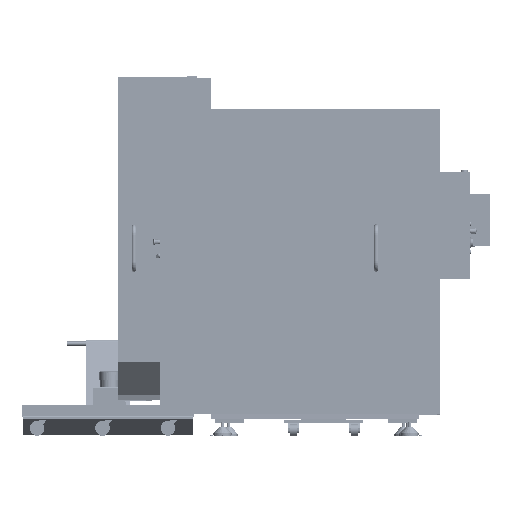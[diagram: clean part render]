
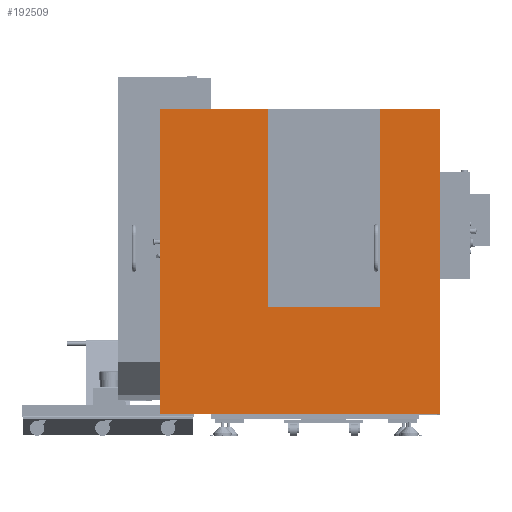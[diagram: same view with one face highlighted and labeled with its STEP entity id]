
A CAD part, top view. The second image highlights one B-rep face of the part: STEP entity #192509.
In plain terms, the highlighted planar face has unit normal (0, 0, 1).
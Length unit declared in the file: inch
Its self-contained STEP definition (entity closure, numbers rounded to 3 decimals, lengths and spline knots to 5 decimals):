
#3843 = VERTEX_POINT ( 'NONE', #401386 ) ;
#7853 = CARTESIAN_POINT ( 'NONE',  ( 15.35, 89.8247, 72.5956 ) ) ;
#9060 = LINE ( 'NONE', #45745, #337877 ) ;
#11697 = PLANE ( 'NONE',  #223214 ) ;
#13912 = EDGE_CURVE ( 'NONE', #393071, #234578, #114820, .T. ) ;
#22282 = VERTEX_POINT ( 'NONE', #31652 ) ;
#22392 = EDGE_CURVE ( 'NONE', #360240, #64587, #9060, .T. ) ;
#31652 = CARTESIAN_POINT ( 'NONE',  ( -45.2691, 89.8247, 72.5956 ) ) ;
#37657 = CARTESIAN_POINT ( 'NONE',  ( 32., 5.9, 72.5956 ) ) ;
#40320 = DIRECTION ( 'NONE',  ( 0., -1., 0. ) ) ;
#40324 = ORIENTED_EDGE ( 'NONE', *, *, #13912, .T. ) ;
#41107 = DIRECTION ( 'NONE',  ( 0., 1., 0. ) ) ;
#45386 = CARTESIAN_POINT ( 'NONE',  ( 15.35, 35.1, 72.5956 ) ) ;
#45611 = VECTOR ( 'NONE', #57367, 39.37008 ) ;
#45745 = CARTESIAN_POINT ( 'NONE',  ( 30.98, 89.8247, 72.5956 ) ) ;
#57367 = DIRECTION ( 'NONE',  ( 0., 1., 0. ) ) ;
#64587 = VERTEX_POINT ( 'NONE', #115957 ) ;
#71556 = CARTESIAN_POINT ( 'NONE',  ( -15.35, 35.1, 72.5956 ) ) ;
#95384 = VECTOR ( 'NONE', #351770, 39.37008 ) ;
#98489 = LINE ( 'NONE', #194668, #355617 ) ;
#101040 = CARTESIAN_POINT ( 'NONE',  ( 32., 5.9, 72.5956 ) ) ;
#101818 = ORIENTED_EDGE ( 'NONE', *, *, #107694, .T. ) ;
#107694 = EDGE_CURVE ( 'NONE', #234578, #227497, #98489, .T. ) ;
#110860 = ORIENTED_EDGE ( 'NONE', *, *, #171607, .F. ) ;
#114820 = LINE ( 'NONE', #206957, #371380 ) ;
#115957 = CARTESIAN_POINT ( 'NONE',  ( 32., 89.8247, 72.5956 ) ) ;
#132456 = FACE_OUTER_BOUND ( 'NONE', #267202, .T. ) ;
#133888 = DIRECTION ( 'NONE',  ( 1., 0., 0. ) ) ;
#136520 = CARTESIAN_POINT ( 'NONE',  ( 30.98, 5.9, 72.5956 ) ) ;
#146553 = DIRECTION ( 'NONE',  ( 0., 1., 0. ) ) ;
#148240 = EDGE_CURVE ( 'NONE', #393071, #360240, #184230, .T. ) ;
#155185 = CARTESIAN_POINT ( 'NONE',  ( -15.35, 89.8247, 72.5956 ) ) ;
#158727 = ORIENTED_EDGE ( 'NONE', *, *, #22392, .F. ) ;
#161103 = ORIENTED_EDGE ( 'NONE', *, *, #303616, .F. ) ;
#171607 = EDGE_CURVE ( 'NONE', #22282, #227497, #375359, .T. ) ;
#177769 = VERTEX_POINT ( 'NONE', #37657 ) ;
#184230 = LINE ( 'NONE', #212884, #45611 ) ;
#185110 = CARTESIAN_POINT ( 'NONE',  ( -45.2691, 89.8247, 72.5956 ) ) ;
#190706 = EDGE_CURVE ( 'NONE', #3843, #22282, #336722, .T. ) ;
#192509 = ADVANCED_FACE ( 'NONE', ( #132456 ), #11697, .T. ) ;
#194668 = CARTESIAN_POINT ( 'NONE',  ( -15.35, 88.8047, 72.5956 ) ) ;
#206957 = CARTESIAN_POINT ( 'NONE',  ( 15.35, 35.1, 72.5956 ) ) ;
#209177 = VECTOR ( 'NONE', #146553, 39.37008 ) ;
#212884 = CARTESIAN_POINT ( 'NONE',  ( 15.35, 88.8047, 72.5956 ) ) ;
#223214 = AXIS2_PLACEMENT_3D ( 'NONE', #136520, #320722, #40320 ) ;
#226984 = LINE ( 'NONE', #317080, #95384 ) ;
#227497 = VERTEX_POINT ( 'NONE', #155185 ) ;
#234578 = VERTEX_POINT ( 'NONE', #71556 ) ;
#246192 = ORIENTED_EDGE ( 'NONE', *, *, #190706, .F. ) ;
#267202 = EDGE_LOOP ( 'NONE', ( #40324, #101818, #110860, #246192, #284187, #161103, #158727, #297662 ) ) ;
#281013 = EDGE_CURVE ( 'NONE', #3843, #177769, #226984, .T. ) ;
#284187 = ORIENTED_EDGE ( 'NONE', *, *, #281013, .T. ) ;
#289353 = LINE ( 'NONE', #101040, #367183 ) ;
#297662 = ORIENTED_EDGE ( 'NONE', *, *, #148240, .F. ) ;
#303616 = EDGE_CURVE ( 'NONE', #64587, #177769, #289353, .T. ) ;
#314007 = DIRECTION ( 'NONE',  ( 1., 0., 0. ) ) ;
#317080 = CARTESIAN_POINT ( 'NONE',  ( 30.98, 5.9, 72.5956 ) ) ;
#320722 = DIRECTION ( 'NONE',  ( 0., 0., 1. ) ) ;
#336722 = LINE ( 'NONE', #365430, #209177 ) ;
#337877 = VECTOR ( 'NONE', #133888, 39.37008 ) ;
#350665 = DIRECTION ( 'NONE',  ( 0., -1., 0. ) ) ;
#351770 = DIRECTION ( 'NONE',  ( 1., 0., 0. ) ) ;
#355617 = VECTOR ( 'NONE', #41107, 39.37008 ) ;
#358398 = VECTOR ( 'NONE', #314007, 39.37008 ) ;
#360240 = VERTEX_POINT ( 'NONE', #7853 ) ;
#365430 = CARTESIAN_POINT ( 'NONE',  ( -45.2691, 88.8047, 72.5956 ) ) ;
#367183 = VECTOR ( 'NONE', #350665, 39.37008 ) ;
#371380 = VECTOR ( 'NONE', #393165, 39.37008 ) ;
#375359 = LINE ( 'NONE', #185110, #358398 ) ;
#393071 = VERTEX_POINT ( 'NONE', #45386 ) ;
#393165 = DIRECTION ( 'NONE',  ( -1., 0., 0. ) ) ;
#401386 = CARTESIAN_POINT ( 'NONE',  ( -45.2691, 5.9, 72.5956 ) ) ;
